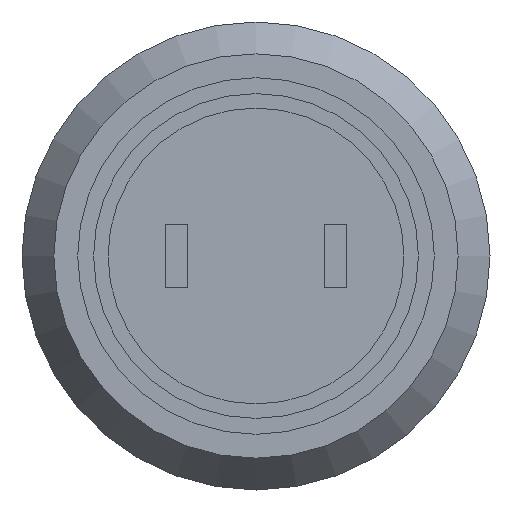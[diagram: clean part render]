
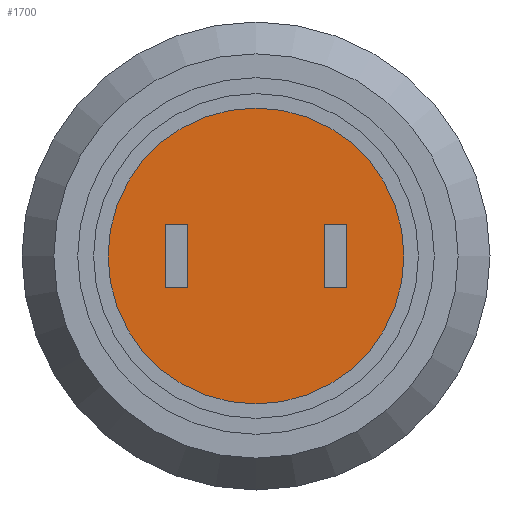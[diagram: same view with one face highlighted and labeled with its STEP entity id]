
A CAD part, front view. The second image highlights one B-rep face of the part: STEP entity #1700.
In plain terms, the highlighted planar face has unit normal (0, -1, 0).
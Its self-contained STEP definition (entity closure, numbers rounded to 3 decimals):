
#13 = DIRECTION ( 'NONE',  ( 0., 0., -1. ) ) ;
#301 = DIRECTION ( 'NONE',  ( 0., -1., 0. ) ) ;
#425 = CARTESIAN_POINT ( 'NONE',  ( 0., -16.85, 0. ) ) ;
#876 = CARTESIAN_POINT ( 'NONE',  ( 0., -16.85, 0. ) ) ;
#981 = EDGE_LOOP ( 'NONE', ( #1497 ) ) ;
#1030 = AXIS2_PLACEMENT_3D ( 'NONE', #876, #1453, #1361 ) ;
#1066 = VERTEX_POINT ( 'NONE', #1408 ) ;
#1090 = AXIS2_PLACEMENT_3D ( 'NONE', #425, #301, #13 ) ;
#1361 = DIRECTION ( 'NONE',  ( 0., 0., -1. ) ) ;
#1408 = CARTESIAN_POINT ( 'NONE',  ( 0., -16.85, -4.648 ) ) ;
#1453 = DIRECTION ( 'NONE',  ( 0., -1., 0. ) ) ;
#1497 = ORIENTED_EDGE ( 'NONE', *, *, #1845, .T. ) ;
#1670 = FACE_OUTER_BOUND ( 'NONE', #981, .T. ) ;
#1679 = PLANE ( 'NONE',  #1090 ) ;
#1691 = CIRCLE ( 'NONE', #1030, 4.648 ) ;
#1700 = ADVANCED_FACE ( 'NONE', ( #1670 ), #1679, .T. ) ;
#1845 = EDGE_CURVE ( 'NONE', #1066, #1066, #1691, .T. ) ;
